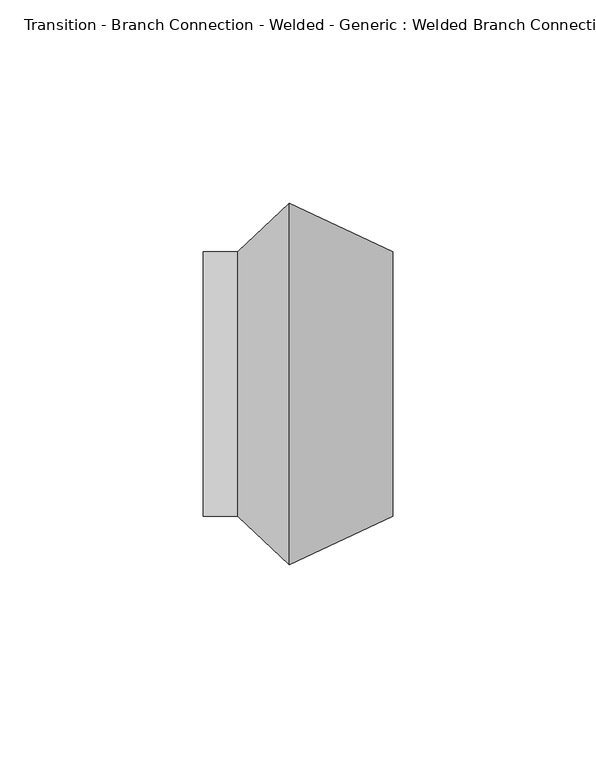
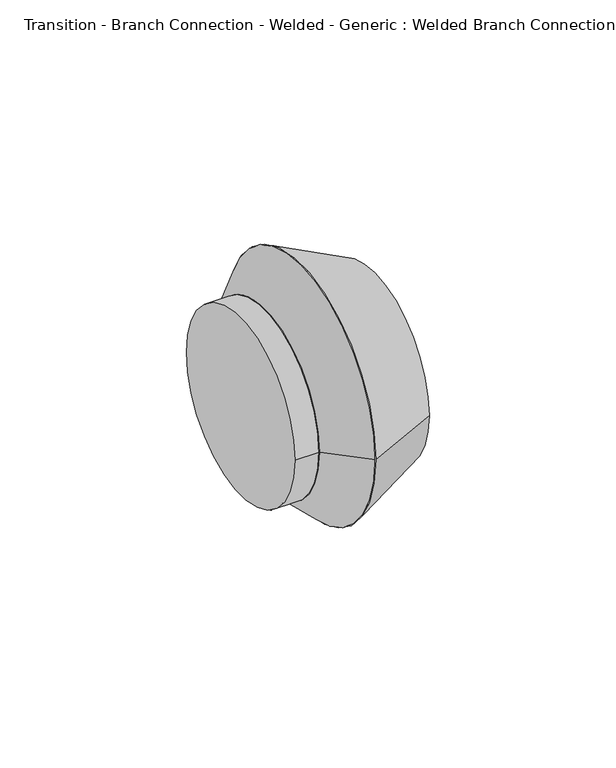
"""IFC4 building model written with IfcOpenShell, lengths in millimetres: pipe fitting geometry, Transition - Branch Connection - Welded - Generic : Welded Branch Connection."""

from ifc_helpers import new_model, si_unit, point, frame, origin, origin_2d, place, context, project, spatial, polyline, circle_curve, trimmed, segment, composite_curve, outline, extrude, source, transform, mapped, element, save
from ifc_brep_helpers import plane_surface, revolved_surface, advanced_brep


def transition_branch_connection_welded_generic_welded_branch_051063fe(model_context):
    return source(origin(), model_context, "Body", "SolidModel", [
        advanced_brep(
        [(12.7, 44.45, 0.0), (12.7, -44.45, 0.0), (38.1, 32.54375, 0.0), (38.1, -32.54375, 0.0)],
        [
            (0, 1, circle_curve(frame((12.7, 0.0, 0.0), z_axis=(-1.0, 0.0, 0.0), x_axis=(0.0, -1.0, 0.0)), 44.45)),
            (1, 0, circle_curve(frame((12.7, 0.0, 0.0), z_axis=(-1.0, 0.0, 0.0), x_axis=(0.0, 1.0, 0.0)), 44.45)),
            (2, 3, circle_curve(frame((38.1, 0.0, 0.0), z_axis=(1.0, 0.0, 0.0), x_axis=(0.0, 1.0, 0.0)), 32.54375)),
            (3, 2, circle_curve(frame((38.1, 0.0, 0.0), z_axis=(1.0, 0.0, 0.0), x_axis=(0.0, -1.0, 0.0)), 32.54375)),
            (3, 1),
            (0, 2),
        ],
        [
            plane_surface(frame((12.7, 0.0, 0.0), z_axis=(-1.0, 0.0, 0.0), x_axis=(0.0, 0.0, -1.0))),
            plane_surface(frame((38.1, 0.0, 0.0), z_axis=(1.0, 0.0, 0.0), x_axis=(0.0, 0.0, -1.0))),
            revolved_surface(polyline([(38.10000000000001, -32.54375000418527, 0.0), (12.700000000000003, -44.45, 0.0)]), (107.5266667, 0.0, 0.0), (-1.0, 0.0, 0.0)),
            revolved_surface(polyline([(38.10000000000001, 32.54375000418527, 0.0), (12.700000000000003, 44.45, 0.0)]), (107.5266667, 0.0, 0.0), (-1.0, 0.0, 0.0)),
        ],
        [
            (0, [[1, 2]]),
            (1, [[3, 4]]),
            (2, [[5, -1, 6, -4]]),
            (3, [[-6, -2, -5, -3]]),
        ],
    ),
        advanced_brep(
        [(12.7, 44.45, 0.0), (12.7, -44.45, 0.0), (0.0, 32.54375, 0.0), (0.0, -32.54375, 0.0)],
        [
            (0, 1, circle_curve(frame((12.7, 0.0, 0.0), z_axis=(1.0, 0.0, 0.0), x_axis=(0.0, -1.0, 0.0)), 44.45)),
            (1, 0, circle_curve(frame((12.7, 0.0, 0.0), z_axis=(1.0, 0.0, 0.0), x_axis=(0.0, 1.0, 0.0)), 44.45)),
            (2, 3, circle_curve(frame((0.0, 0.0, 0.0), z_axis=(-1.0, 0.0, 0.0), x_axis=(0.0, 1.0, 0.0)), 32.54375)),
            (3, 2, circle_curve(frame((0.0, 0.0, 0.0), z_axis=(-1.0, 0.0, 0.0), x_axis=(0.0, -1.0, 0.0)), 32.54375)),
            (2, 0),
            (1, 3),
        ],
        [
            plane_surface(frame((12.7, 0.0, 0.0), z_axis=(1.0, 0.0, 0.0), x_axis=(0.0, 0.0, -1.0))),
            plane_surface(frame((0.0, 0.0, 0.0), z_axis=(-1.0, 0.0, 0.0), x_axis=(0.0, 0.0, -1.0))),
            revolved_surface(polyline([(0.0, 32.54374999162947, 0.0), (12.700000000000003, 44.45, 0.0)]), (-34.7133333, 0.0, 0.0), (1.0, 0.0, 0.0)),
            revolved_surface(polyline([(0.0, -32.54374999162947, 0.0), (12.700000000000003, -44.45, 0.0)]), (-34.7133333, 0.0, 0.0), (1.0, 0.0, 0.0)),
        ],
        [
            (0, [[1, 2]]),
            (1, [[3, 4]]),
            (2, [[5, -2, 6, -3]]),
            (3, [[-6, -1, -5, -4]]),
        ],
    ),
        extrude(outline(composite_curve([segment(trimmed(circle_curve(origin_2d(), 32.54375), [point((32.54375, 0.0))], [point((-32.54375, 0.0))], False, "CARTESIAN"), True, "CONTINUOUS"), segment(trimmed(circle_curve(origin_2d(), 32.54375), [point((-32.54375, 0.0))], [point((32.54375, 0.0))], False, "CARTESIAN"), True, "CONTINUOUS")], self_intersect=False)), frame((-8.4602882, 0.0, 0.0), z_axis=(1.0, 0.0, 0.0), x_axis=(0.0, 1.0, 0.0)), (0.0, 0.0, 1.0), 8.4602882),
    ])


if __name__ == "__main__":
    model = new_model("IFC4")
    model_context = context("Model", 3, world=origin())
    ifc_project = project(units=[si_unit("LENGTHUNIT", "METRE", prefix="MILLI")], contexts=[model_context])
    site = spatial("IfcSite", under=ifc_project)
    building = spatial("IfcBuilding", under=site)
    placement = place(None, origin())
    transition_branch_connection_welded_generic_welded_branch_shape = transition_branch_connection_welded_generic_welded_branch_051063fe(model_context)
    element("IfcPipeFitting", 1, ObjectType="Transition - Branch Connection - Welded - Generic : Welded Branch Connection", at=placement, inside=building, context=model_context, shape_type="MappedRepresentation", body=[
        mapped(transition_branch_connection_welded_generic_welded_branch_shape, transform((0.0, 0.0, 0.0), x_axis=(1.0, 0.0, 0.0), y_axis=(0.0, 1.0, 0.0), z_axis=(0.0, 0.0, 1.0))),
    ])
    save(model, "model.ifc")
